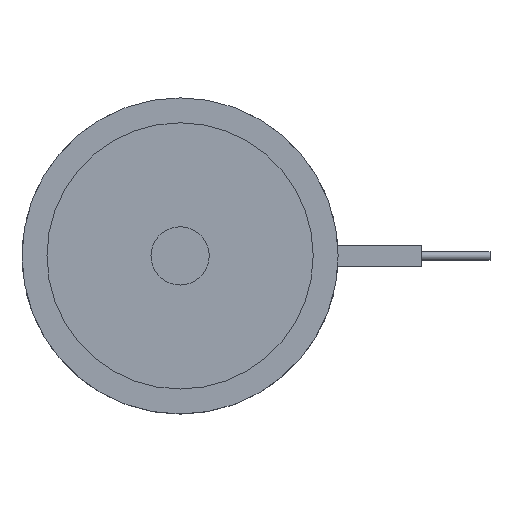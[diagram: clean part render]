
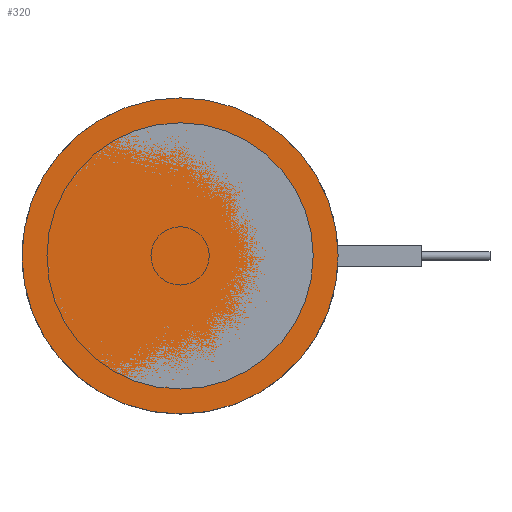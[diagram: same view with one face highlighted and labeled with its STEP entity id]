
A CAD part, top view. The second image highlights one B-rep face of the part: STEP entity #320.
In plain terms, the highlighted planar face has unit normal (0, 0, 1).
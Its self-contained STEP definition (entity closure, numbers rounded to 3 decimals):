
#320=ADVANCED_FACE('',(#422),#386,.F.);
#386=PLANE('',#1111);
#422=FACE_OUTER_BOUND('',#499,.T.);
#499=EDGE_LOOP('',(#633));
#633=ORIENTED_EDGE('',*,*,#921,.F.);
#828=VERTEX_POINT('',#1606);
#921=EDGE_CURVE('',#828,#828,#1021,.T.);
#1021=CIRCLE('',#1110,19.);
#1110=AXIS2_PLACEMENT_3D('',#1605,#1304,#1305);
#1111=AXIS2_PLACEMENT_3D('',#1607,#1306,#1307);
#1304=DIRECTION('',(0.,0.,-1.));
#1305=DIRECTION('',(-1.,0.,0.));
#1306=DIRECTION('',(0.,0.,-1.));
#1307=DIRECTION('',(-1.,0.,0.));
#1605=CARTESIAN_POINT('',(0.,0.,0.));
#1606=CARTESIAN_POINT('',(-19.,0.,0.));
#1607=CARTESIAN_POINT('',(0.,0.,0.));
